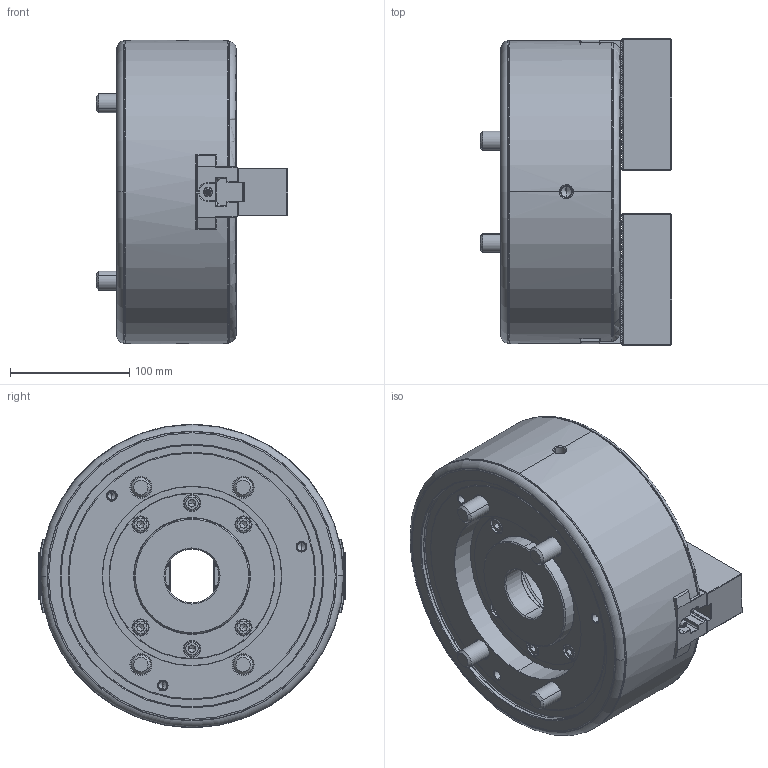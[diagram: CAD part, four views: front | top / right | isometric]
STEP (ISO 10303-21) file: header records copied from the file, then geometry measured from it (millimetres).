
FILE_DESCRIPTION (( 'STEP AP214' ), '1' );
FILE_NAME ('BRT10_UC.STEP', '2022-06-17T07:31:59', ( '' ), ( '' ), 'SwSTEP 2.0', 'SolidWorks 2020', '' );
FILE_SCHEMA (( 'AUTOMOTIVE_DESIGN' ));
Length unit declared in the file: millimetre
Products named in the file (5): BR10-Nishi05 Plus-Tナット改1_61P417262-1 B-210 Tﾅｯﾄ-ﾃﾞﾌｫﾙﾄ; Bアナツキ M12×30; 61P848284-0(SJ10B1) 61P314663-3(SJ10A1T) ソフトジョー_]SJ10A1T-ﾃﾞﾌｫﾙﾄ-Design; Part1^BR10-Nishi07 クミタテ; BRT10_UC
Assembly tree (9 placements, depth 2):
  BRT10_UC
    61P848284-0(SJ10B1) 61P314663-3(SJ10A1T) ソフトジョー_]SJ10A1T-ﾃﾞﾌｫﾙﾄ-Design  x2
    BR10-Nishi05 Plus-Tナット改1_61P417262-1 B-210 Tﾅｯﾄ-ﾃﾞﾌｫﾙﾄ  x2
    Bアナツキ M12×30  x4
    Part1^BR10-Nishi07 クミタテ
Bounding box: 160.2 x 256.49 x 254 mm (x, y, z)
Volume: 4520540.9 mm3; surface area: 380247.6 mm2
Topology: 9 solids, 33 shells, 3238 faces, 8750 edges, 5647 vertices
Faces by surface type: plane 2394, cylinder 389, cone 272, bspline 98, torus 75, sphere 10
Entity records: 85385 total; most frequent: CARTESIAN_POINT 19438, ORIENTED_EDGE 14042, DIRECTION 12960, EDGE_CURVE 7021, VECTOR 5454, LINE 5454, VERTEX_POINT 4548, AXIS2_PLACEMENT_3D 3753
